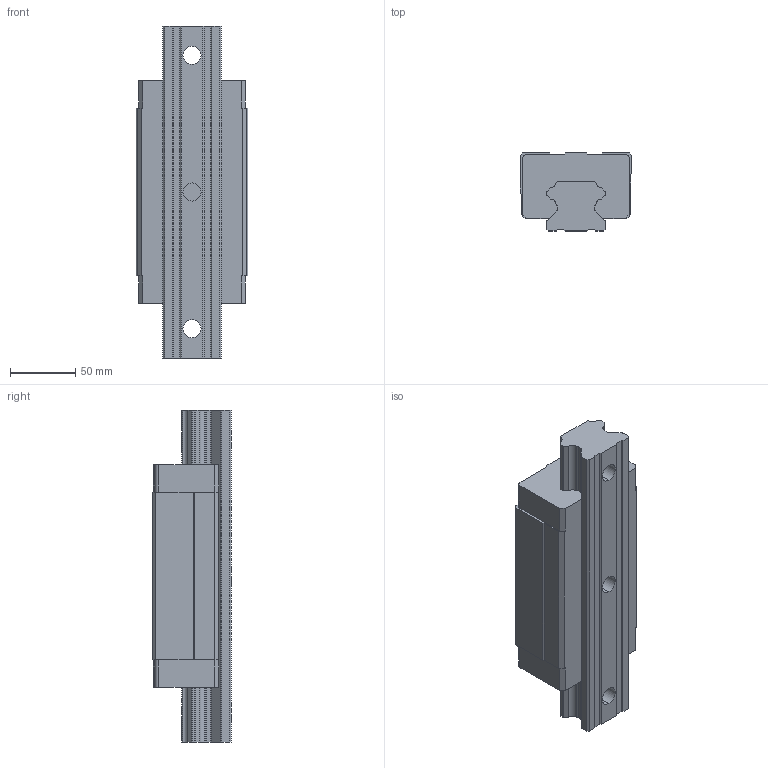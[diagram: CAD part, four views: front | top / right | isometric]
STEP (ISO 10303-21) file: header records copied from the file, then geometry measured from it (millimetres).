
FILE_DESCRIPTION (( 'STEP AP214' ), '1' );
FILE_NAME ('2.1042 Lineaarikelkka HGL45HA.STEP', '2025-09-19T06:36:56', ( '' ), ( '' ), 'SwSTEP 2.0', 'SolidWorks 2025', '' );
FILE_SCHEMA (( 'AUTOMOTIVE_DESIGN' ));
Length unit declared in the file: millimetre
Products named in the file (1): 2.1042 Lineaarikelkka HGL45HA
Bounding box: 86 x 60 x 255 mm (x, y, z)
Volume: 876878.9 mm3; surface area: 116750.7 mm2
Topology: 2 solids, 2 shells, 145 faces, 402 edges, 268 vertices
Faces by surface type: plane 95, cylinder 50
Entity records: 6275 total; most frequent: CARTESIAN_POINT 816, ORIENTED_EDGE 804, DIRECTION 794, EDGE_CURVE 402, LINE 302, VECTOR 302, VERTEX_POINT 268, AXIS2_PLACEMENT_3D 246
